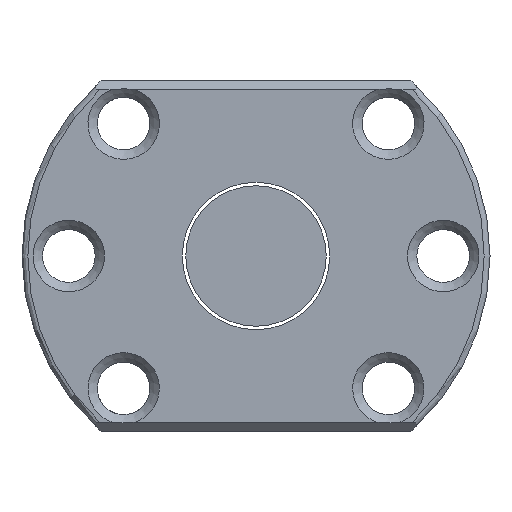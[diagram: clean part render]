
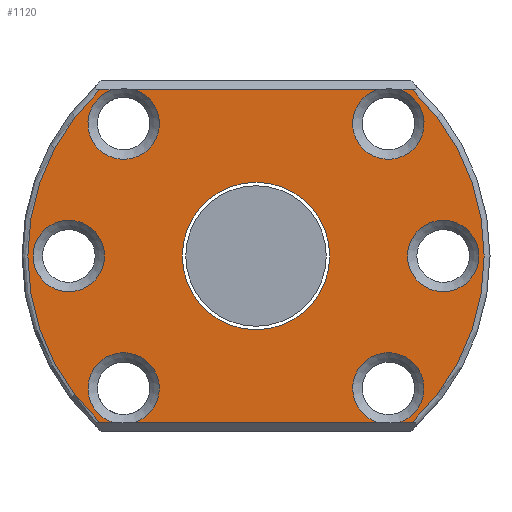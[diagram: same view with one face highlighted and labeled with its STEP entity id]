
A CAD part, left-side view. The second image highlights one B-rep face of the part: STEP entity #1120.
In plain terms, the highlighted planar face has unit normal (-1, 0, 0).
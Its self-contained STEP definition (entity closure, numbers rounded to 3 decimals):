
#9 = ORIENTED_EDGE ( 'NONE', *, *, #562, .T. ) ;
#12 = CARTESIAN_POINT ( 'NONE',  ( -40., 13.365, -14.2 ) ) ;
#16 = ORIENTED_EDGE ( 'NONE', *, *, #20, .T. ) ;
#20 = EDGE_CURVE ( 'NONE', #327, #1063, #1134, .T. ) ;
#48 = CARTESIAN_POINT ( 'NONE',  ( -40., -11.314, 11.314 ) ) ;
#52 = CARTESIAN_POINT ( 'NONE',  ( -40., 0., -6.3 ) ) ;
#55 = DIRECTION ( 'NONE',  ( 1., 0., 0. ) ) ;
#61 = CARTESIAN_POINT ( 'NONE',  ( -40., 0., 0. ) ) ;
#95 = DIRECTION ( 'NONE',  ( 0., 0., 1. ) ) ;
#99 = ORIENTED_EDGE ( 'NONE', *, *, #1057, .T. ) ;
#104 = CARTESIAN_POINT ( 'NONE',  ( -40., 20., 0. ) ) ;
#105 = CIRCLE ( 'NONE', #1215, 3.05 ) ;
#118 = CARTESIAN_POINT ( 'NONE',  ( -40., -16., 0. ) ) ;
#120 = CARTESIAN_POINT ( 'NONE',  ( -40., -12.46, -14.2 ) ) ;
#121 = ORIENTED_EDGE ( 'NONE', *, *, #353, .T. ) ;
#127 = CIRCLE ( 'NONE', #1211, 3.05 ) ;
#133 = ORIENTED_EDGE ( 'NONE', *, *, #603, .T. ) ;
#150 = AXIS2_PLACEMENT_3D ( 'NONE', #559, #655, #951 ) ;
#159 = ORIENTED_EDGE ( 'NONE', *, *, #1290, .T. ) ;
#160 = CARTESIAN_POINT ( 'NONE',  ( -40., -10.328, -14.2 ) ) ;
#166 = CARTESIAN_POINT ( 'NONE',  ( -40., -11.314, -11.314 ) ) ;
#168 = CIRCLE ( 'NONE', #1257, 6.3 ) ;
#169 = VECTOR ( 'NONE', #806, 1000. ) ;
#175 = VERTEX_POINT ( 'NONE', #12 ) ;
#203 = DIRECTION ( 'NONE',  ( -1., 0., 0. ) ) ;
#204 = DIRECTION ( 'NONE',  ( 1., 0., 0. ) ) ;
#208 = CARTESIAN_POINT ( 'NONE',  ( -40., 11.314, 11.314 ) ) ;
#218 = DIRECTION ( 'NONE',  ( 0., 0., 1. ) ) ;
#227 = VERTEX_POINT ( 'NONE', #838 ) ;
#239 = LINE ( 'NONE', #336, #531 ) ;
#256 = CIRCLE ( 'NONE', #150, 19.5 ) ;
#271 = DIRECTION ( 'NONE',  ( 1., 0., 0. ) ) ;
#275 = CIRCLE ( 'NONE', #1023, 3.05 ) ;
#278 = VERTEX_POINT ( 'NONE', #315 ) ;
#279 = VECTOR ( 'NONE', #1150, 1000. ) ;
#286 = DIRECTION ( 'NONE',  ( 0., 0., 1. ) ) ;
#305 = DIRECTION ( 'NONE',  ( 0., 0., 1. ) ) ;
#315 = CARTESIAN_POINT ( 'NONE',  ( -40., 12.3, 14.2 ) ) ;
#318 = VERTEX_POINT ( 'NONE', #1262 ) ;
#327 = VERTEX_POINT ( 'NONE', #160 ) ;
#333 = VERTEX_POINT ( 'NONE', #1248 ) ;
#336 = CARTESIAN_POINT ( 'NONE',  ( -40., 12.46, 14.2 ) ) ;
#340 = DIRECTION ( 'NONE',  ( 0., 0., 1. ) ) ;
#353 = EDGE_CURVE ( 'NONE', #318, #535, #127, .T. ) ;
#382 = ORIENTED_EDGE ( 'NONE', *, *, #675, .T. ) ;
#390 = DIRECTION ( 'NONE',  ( 0., 0., 1. ) ) ;
#396 = DIRECTION ( 'NONE',  ( 0., -1., 0. ) ) ;
#398 = FACE_BOUND ( 'NONE', #844, .T. ) ;
#405 = VECTOR ( 'NONE', #1155, 1000. ) ;
#431 = AXIS2_PLACEMENT_3D ( 'NONE', #1216, #832, #305 ) ;
#449 = EDGE_CURVE ( 'NONE', #466, #466, #168, .T. ) ;
#457 = CARTESIAN_POINT ( 'NONE',  ( -40., -16., 3.05 ) ) ;
#458 = EDGE_LOOP ( 'NONE', ( #9 ) ) ;
#466 = VERTEX_POINT ( 'NONE', #52 ) ;
#467 = CIRCLE ( 'NONE', #431, 3.05 ) ;
#482 = CIRCLE ( 'NONE', #724, 3.05 ) ;
#515 = ORIENTED_EDGE ( 'NONE', *, *, #662, .T. ) ;
#518 = FACE_BOUND ( 'NONE', #458, .T. ) ;
#531 = VECTOR ( 'NONE', #860, 1000. ) ;
#535 = VERTEX_POINT ( 'NONE', #985 ) ;
#539 = CARTESIAN_POINT ( 'NONE',  ( -40., 12.3, -14.2 ) ) ;
#540 = LINE ( 'NONE', #1180, #405 ) ;
#553 = VECTOR ( 'NONE', #687, 1000. ) ;
#557 = ORIENTED_EDGE ( 'NONE', *, *, #819, .T. ) ;
#559 = CARTESIAN_POINT ( 'NONE',  ( -40., 0., 0. ) ) ;
#562 = EDGE_CURVE ( 'NONE', #1093, #1093, #275, .T. ) ;
#570 = AXIS2_PLACEMENT_3D ( 'NONE', #166, #674, #286 ) ;
#583 = CARTESIAN_POINT ( 'NONE',  ( -40., -13.365, -14.2 ) ) ;
#588 = VERTEX_POINT ( 'NONE', #583 ) ;
#603 = EDGE_CURVE ( 'NONE', #627, #318, #1193, .T. ) ;
#615 = CARTESIAN_POINT ( 'NONE',  ( -40., -12.3, -14.2 ) ) ;
#621 = ORIENTED_EDGE ( 'NONE', *, *, #1270, .T. ) ;
#622 = CARTESIAN_POINT ( 'NONE',  ( -40., -12.46, -14.2 ) ) ;
#627 = VERTEX_POINT ( 'NONE', #1294 ) ;
#643 = CIRCLE ( 'NONE', #1237, 19.5 ) ;
#655 = DIRECTION ( 'NONE',  ( -1., 0., 0. ) ) ;
#662 = EDGE_CURVE ( 'NONE', #333, #278, #482, .T. ) ;
#674 = DIRECTION ( 'NONE',  ( 1., 0., 0. ) ) ;
#675 = EDGE_CURVE ( 'NONE', #1063, #588, #718, .T. ) ;
#687 = DIRECTION ( 'NONE',  ( 0., 1., 0. ) ) ;
#713 = CARTESIAN_POINT ( 'NONE',  ( -40., 10.328, -14.2 ) ) ;
#715 = LINE ( 'NONE', #120, #279 ) ;
#718 = LINE ( 'NONE', #622, #1295 ) ;
#724 = AXIS2_PLACEMENT_3D ( 'NONE', #208, #1019, #1124 ) ;
#728 = CARTESIAN_POINT ( 'NONE',  ( -40., -12.46, -14.2 ) ) ;
#732 = EDGE_CURVE ( 'NONE', #588, #627, #643, .T. ) ;
#743 = DIRECTION ( 'NONE',  ( -1., 0., 0. ) ) ;
#782 = CARTESIAN_POINT ( 'NONE',  ( -40., 16., 3.05 ) ) ;
#800 = PLANE ( 'NONE',  #1091 ) ;
#806 = DIRECTION ( 'NONE',  ( 0., -1., 0. ) ) ;
#816 = FACE_OUTER_BOUND ( 'NONE', #944, .T. ) ;
#819 = EDGE_CURVE ( 'NONE', #535, #333, #540, .T. ) ;
#832 = DIRECTION ( 'NONE',  ( 1., 0., 0. ) ) ;
#838 = CARTESIAN_POINT ( 'NONE',  ( -40., 13.365, 14.2 ) ) ;
#844 = EDGE_LOOP ( 'NONE', ( #954 ) ) ;
#858 = DIRECTION ( 'NONE',  ( 1., 0., 0. ) ) ;
#860 = DIRECTION ( 'NONE',  ( 0., 1., 0. ) ) ;
#863 = VERTEX_POINT ( 'NONE', #539 ) ;
#873 = DIRECTION ( 'NONE',  ( 0., 0., 1. ) ) ;
#878 = VERTEX_POINT ( 'NONE', #457 ) ;
#881 = EDGE_CURVE ( 'NONE', #227, #175, #256, .T. ) ;
#937 = EDGE_CURVE ( 'NONE', #278, #227, #239, .T. ) ;
#944 = EDGE_LOOP ( 'NONE', ( #1028, #1151, #159, #621, #16, #382, #1169, #133, #121, #557, #515, #1077 ) ) ;
#951 = DIRECTION ( 'NONE',  ( 0., 0., 1. ) ) ;
#954 = ORIENTED_EDGE ( 'NONE', *, *, #449, .T. ) ;
#985 = CARTESIAN_POINT ( 'NONE',  ( -40., -10.328, 14.2 ) ) ;
#1001 = EDGE_CURVE ( 'NONE', #175, #863, #1220, .T. ) ;
#1019 = DIRECTION ( 'NONE',  ( 1., 0., 0. ) ) ;
#1023 = AXIS2_PLACEMENT_3D ( 'NONE', #1301, #271, #390 ) ;
#1028 = ORIENTED_EDGE ( 'NONE', *, *, #881, .T. ) ;
#1057 = EDGE_CURVE ( 'NONE', #878, #878, #105, .T. ) ;
#1063 = VERTEX_POINT ( 'NONE', #615 ) ;
#1077 = ORIENTED_EDGE ( 'NONE', *, *, #937, .T. ) ;
#1091 = AXIS2_PLACEMENT_3D ( 'NONE', #104, #203, #95 ) ;
#1093 = VERTEX_POINT ( 'NONE', #782 ) ;
#1120 = ADVANCED_FACE ( 'NONE', ( #816, #1233, #518, #398 ), #800, .T. ) ;
#1124 = DIRECTION ( 'NONE',  ( 0., 0., 1. ) ) ;
#1134 = CIRCLE ( 'NONE', #570, 3.05 ) ;
#1150 = DIRECTION ( 'NONE',  ( 0., -1., 0. ) ) ;
#1151 = ORIENTED_EDGE ( 'NONE', *, *, #1001, .T. ) ;
#1155 = DIRECTION ( 'NONE',  ( 0., 1., 0. ) ) ;
#1158 = VERTEX_POINT ( 'NONE', #713 ) ;
#1168 = CARTESIAN_POINT ( 'NONE',  ( -40., 0., 0. ) ) ;
#1169 = ORIENTED_EDGE ( 'NONE', *, *, #732, .T. ) ;
#1176 = DIRECTION ( 'NONE',  ( 0., 0., -1. ) ) ;
#1180 = CARTESIAN_POINT ( 'NONE',  ( -40., 12.46, 14.2 ) ) ;
#1183 = CARTESIAN_POINT ( 'NONE',  ( -40., 12.46, 14.2 ) ) ;
#1193 = LINE ( 'NONE', #1183, #553 ) ;
#1211 = AXIS2_PLACEMENT_3D ( 'NONE', #48, #55, #340 ) ;
#1215 = AXIS2_PLACEMENT_3D ( 'NONE', #118, #204, #218 ) ;
#1216 = CARTESIAN_POINT ( 'NONE',  ( -40., 11.314, -11.314 ) ) ;
#1220 = LINE ( 'NONE', #728, #169 ) ;
#1233 = FACE_BOUND ( 'NONE', #1283, .T. ) ;
#1237 = AXIS2_PLACEMENT_3D ( 'NONE', #1168, #743, #873 ) ;
#1248 = CARTESIAN_POINT ( 'NONE',  ( -40., 10.328, 14.2 ) ) ;
#1257 = AXIS2_PLACEMENT_3D ( 'NONE', #61, #858, #1176 ) ;
#1262 = CARTESIAN_POINT ( 'NONE',  ( -40., -12.3, 14.2 ) ) ;
#1270 = EDGE_CURVE ( 'NONE', #1158, #327, #715, .T. ) ;
#1283 = EDGE_LOOP ( 'NONE', ( #99 ) ) ;
#1290 = EDGE_CURVE ( 'NONE', #863, #1158, #467, .T. ) ;
#1294 = CARTESIAN_POINT ( 'NONE',  ( -40., -13.365, 14.2 ) ) ;
#1295 = VECTOR ( 'NONE', #396, 1000. ) ;
#1301 = CARTESIAN_POINT ( 'NONE',  ( -40., 16., 0. ) ) ;
